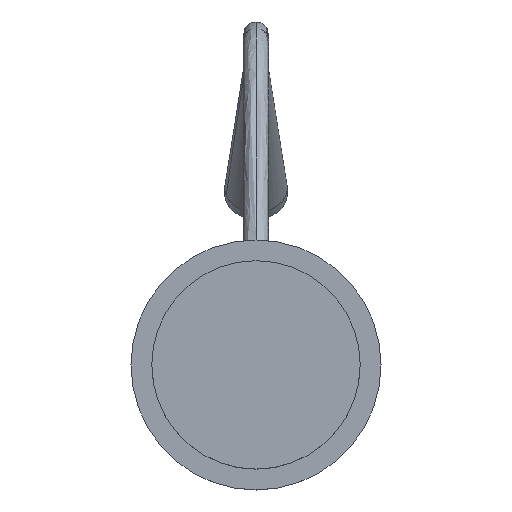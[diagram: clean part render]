
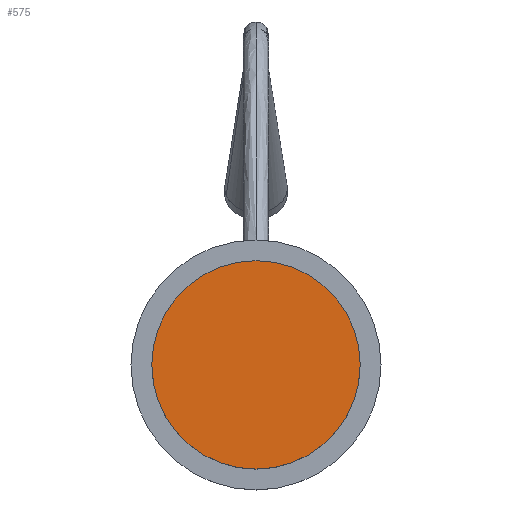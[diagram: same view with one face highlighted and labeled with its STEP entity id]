
A CAD part, top view. The second image highlights one B-rep face of the part: STEP entity #575.
In plain terms, the highlighted planar face has unit normal (0, 0, 1).
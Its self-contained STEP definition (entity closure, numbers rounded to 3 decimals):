
#31 = DIRECTION ( 'NONE',  ( 1., 0., 0. ) ) ;
#58 = FACE_OUTER_BOUND ( 'NONE', #1293, .T. ) ;
#161 = CARTESIAN_POINT ( 'NONE',  ( 0., 0., 0. ) ) ;
#193 = CIRCLE ( 'NONE', #399, 50. ) ;
#217 = CARTESIAN_POINT ( 'NONE',  ( 0., 0., 0. ) ) ;
#288 = DIRECTION ( 'NONE',  ( 0., 0., 1. ) ) ;
#323 = PLANE ( 'NONE',  #845 ) ;
#327 = AXIS2_PLACEMENT_3D ( 'NONE', #959, #821, #1604 ) ;
#381 = VERTEX_POINT ( 'NONE', #701 ) ;
#399 = AXIS2_PLACEMENT_3D ( 'NONE', #161, #288, #31 ) ;
#401 = ORIENTED_EDGE ( 'NONE', *, *, #1036, .T. ) ;
#575 = ADVANCED_FACE ( 'NONE', ( #58 ), #323, .T. ) ;
#577 = ORIENTED_EDGE ( 'NONE', *, *, #1260, .T. ) ;
#667 = VERTEX_POINT ( 'NONE', #1281 ) ;
#701 = CARTESIAN_POINT ( 'NONE',  ( 50., 0., 0. ) ) ;
#727 = DIRECTION ( 'NONE',  ( 0., 0., 1. ) ) ;
#821 = DIRECTION ( 'NONE',  ( 0., 0., 1. ) ) ;
#845 = AXIS2_PLACEMENT_3D ( 'NONE', #217, #727, #1087 ) ;
#959 = CARTESIAN_POINT ( 'NONE',  ( 0., 0., 0. ) ) ;
#1036 = EDGE_CURVE ( 'NONE', #667, #381, #193, .T. ) ;
#1087 = DIRECTION ( 'NONE',  ( 1., 0., 0. ) ) ;
#1260 = EDGE_CURVE ( 'NONE', #381, #667, #1350, .T. ) ;
#1281 = CARTESIAN_POINT ( 'NONE',  ( -50., 0., 0. ) ) ;
#1293 = EDGE_LOOP ( 'NONE', ( #577, #401 ) ) ;
#1350 = CIRCLE ( 'NONE', #327, 50. ) ;
#1604 = DIRECTION ( 'NONE',  ( 1., 0., 0. ) ) ;
